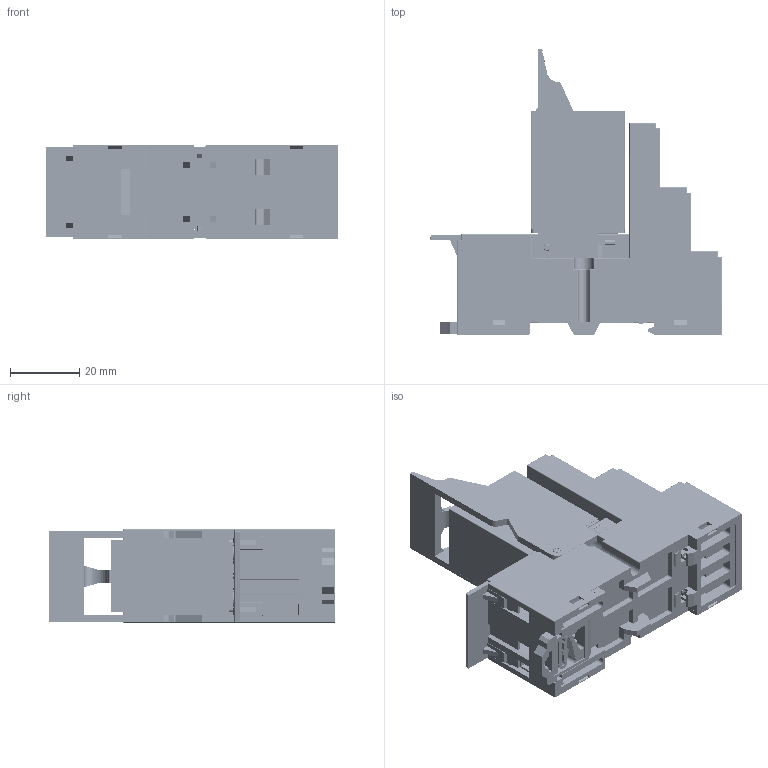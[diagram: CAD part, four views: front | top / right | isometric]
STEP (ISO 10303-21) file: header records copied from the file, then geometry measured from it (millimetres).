
FILE_DESCRIPTION (( 'STEP AP214' ), '1' );
FILE_NAME ('5. IR-4CO_IR-B4-SC-2_IR-RB-2_IR-MP-2.STEP', '2023-06-08T06:08:17', ( '' ), ( '' ), 'SwSTEP 2.0', 'SolidWorks 2022', '' );
FILE_SCHEMA (( 'AUTOMOTIVE_DESIGN' ));
Length unit declared in the file: millimetre
Products named in the file (5): IR-B4-SC-2; IR-MP-2 (DKC); 5. IR-4CO_IR-B4-SC-2_IR-RB-2_IR-MP-2; IR-RB-2 (DKC); IR-4CO
Assembly tree (4 placements, depth 2):
  5. IR-4CO_IR-B4-SC-2_IR-RB-2_IR-MP-2
    IR-B4-SC-2
    IR-4CO
    IR-RB-2 (DKC)
    IR-MP-2 (DKC)
Bounding box: 84.2 x 82.2 x 26.9 mm (x, y, z)
Volume: 64883.8 mm3; surface area: 56347.1 mm2
Topology: 28 solids, 31 shells, 6351 faces, 16668 edges, 10533 vertices
Faces by surface type: plane 3621, cylinder 999, bspline 994, cone 737
Entity records: 276492 total; most frequent: CARTESIAN_POINT 64565, ORIENTED_EDGE 33208, DIRECTION 29969, EDGE_CURVE 16604, LINE 11369, VECTOR 11369, VERTEX_POINT 10533, AXIS2_PLACEMENT_3D 9300
